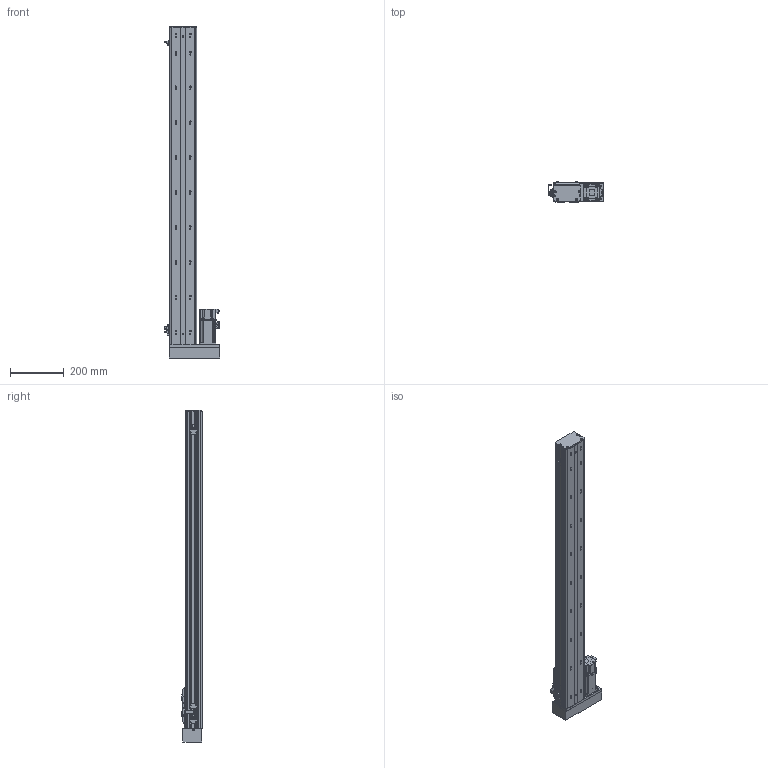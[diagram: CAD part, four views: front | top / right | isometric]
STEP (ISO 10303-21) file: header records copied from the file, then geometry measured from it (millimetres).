
FILE_DESCRIPTION (( 'STEP AP203' ), '1' );
FILE_NAME ('BOSW100-1000-1610-1P-LM-M400W-O-S3（方程式2016）.step', '2020-10-10T07:01:35', ( '' ), ( '' ), 'SwSTEP 2.0', 'SolidWorks 2016', '' );
FILE_SCHEMA (( 'CONFIG_CONTROL_DESIGN' ));
Length unit declared in the file: millimetre
Products named in the file (14): BOSW-100-綴裔啣; 俋境嫖覜嘐隅啣; BOSW-100-1P-DM-1000諦誧芞; BOSW100-1000-1610-1P-LM-M400W-O-S3（方程式2016）; boS-100-LM&RM-三菱M400W马达板-宽轨; 新结构AIMSW-100-1P-宽&高轨共用-滑动座上组件; BOSW&TW-100-詩湍揤沭(陔賦凳); S400W(SMA-L040); BOSW-100-1P-DM-宽轨-侧板-1000客户图纸; AIMS(W)-100-LM&RM-肮祭謫欶; BOSW-100-1P-DM-宽轨-钢带-1000客户图纸; BOSW&TW-100-1P-賑雄釱欶; 放大器内置U型微型光电传感器PM-L65; BOSW&TW-100-俋离覜茼え
Assembly tree (19 placements, depth 2):
  BOSW100-1000-1610-1P-LM-M400W-O-S3（方程式2016）
    BOSW-100-1P-DM-1000諦誧芞
    BOSW-100-綴裔啣
    新结构AIMSW-100-1P-宽&高轨共用-滑动座上组件
    S400W(SMA-L040)
    BOSW&TW-100-詩湍揤沭(陔賦凳)  x2
    BOSW&TW-100-1P-賑雄釱欶
    BOSW&TW-100-俋离覜茼え
    俋境嫖覜嘐隅啣  x3
    放大器内置U型微型光电传感器PM-L65  x3
    BOSW-100-1P-DM-宽轨-侧板-1000客户图纸  x2
    BOSW-100-1P-DM-宽轨-钢带-1000客户图纸
    AIMS(W)-100-LM&RM-肮祭謫欶
    boS-100-LM&RM-三菱M400W马达板-宽轨
Bounding box: 207.9 x 75 x 1236 mm (x, y, z)
Volume: 2666766.8 mm3; surface area: 1233733 mm2
Topology: 19 solids, 20 shells, 2577 faces, 6819 edges, 4355 vertices
Faces by surface type: plane 1249, cylinder 842, bspline 271, cone 167, torus 36, sphere 12
Entity records: 71196 total; most frequent: CARTESIAN_POINT 21196, ORIENTED_EDGE 10178, DIRECTION 9885, EDGE_CURVE 5089, AXIS2_PLACEMENT_3D 3525, VERTEX_POINT 3257, VECTOR 2835, LINE 2835
